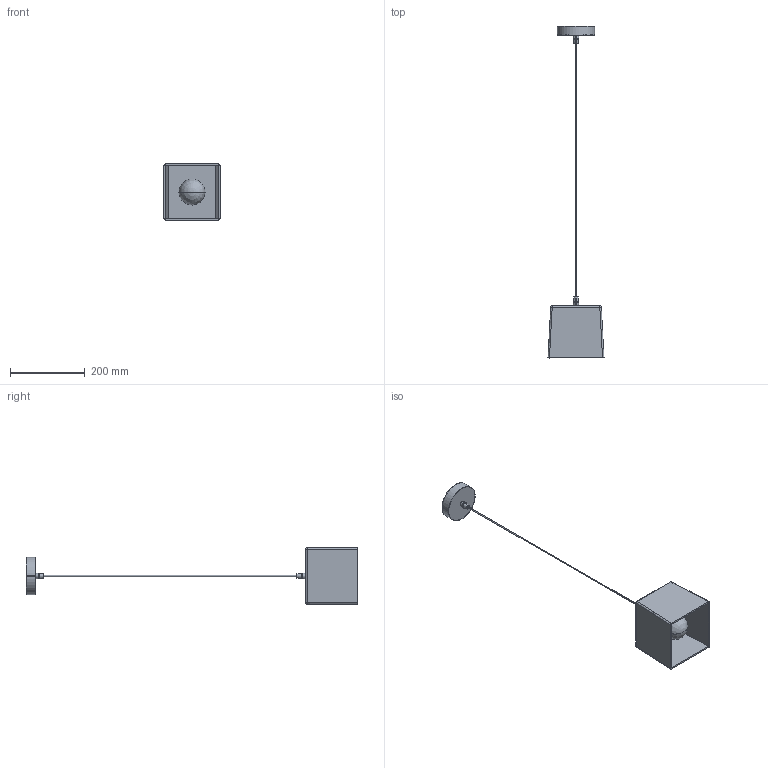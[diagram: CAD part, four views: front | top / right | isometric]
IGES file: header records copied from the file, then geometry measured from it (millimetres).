
Start section: SolidWorks IGES file using analytic representation for surfaces
Global section: file name: F:\燠隴矨\3D\2024-1堎\Georgia Cement Pendant Light-D15XH14CM.IGS; native system: SolidWorks 2022; preprocessor: SolidWorks 2022; author: MyPC; date: 240120.114349; units: millimetre
Bounding box: 150 x 888.17 x 150 mm (x, y, z)
Surface area: 268849.3 mm2 (no closed solid volume)
Topology: 0 solids, 0 shells, 76 faces, 1168 edges, 1163 vertices
Faces by surface type: revolution 44, bspline 32
